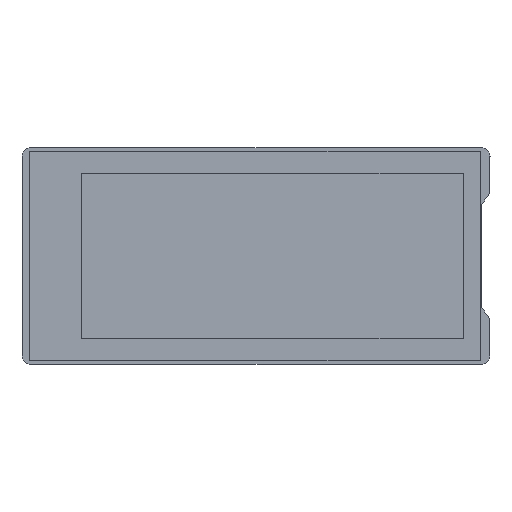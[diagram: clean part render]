
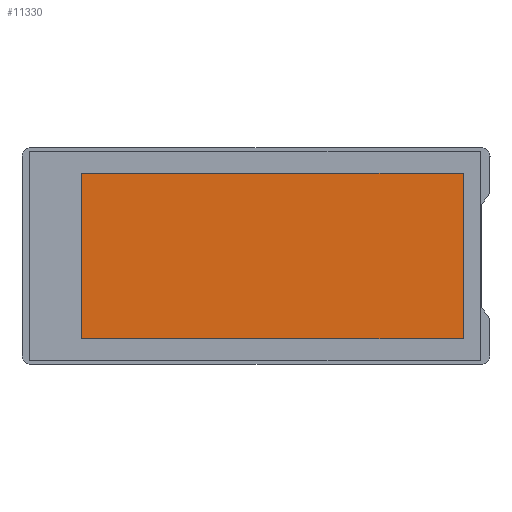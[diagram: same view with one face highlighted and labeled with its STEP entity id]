
A CAD part, top view. The second image highlights one B-rep face of the part: STEP entity #11330.
In plain terms, the highlighted planar face has unit normal (0, 0, 1).
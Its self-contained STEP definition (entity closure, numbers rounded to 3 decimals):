
#11330=ADVANCED_FACE('',(#15058),#12881,.T.);
#12881=PLANE('',#51309);
#15058=FACE_OUTER_BOUND('',#17388,.T.);
#17388=EDGE_LOOP('',(#29270,#29271,#29272,#29273));
#29270=ORIENTED_EDGE('',*,*,#39150,.T.);
#29271=ORIENTED_EDGE('',*,*,#39154,.T.);
#29272=ORIENTED_EDGE('',*,*,#39157,.T.);
#29273=ORIENTED_EDGE('',*,*,#39159,.T.);
#33200=VERTEX_POINT('',#83958);
#33201=VERTEX_POINT('',#83960);
#33203=VERTEX_POINT('',#83966);
#33205=VERTEX_POINT('',#83972);
#39150=EDGE_CURVE('',#33201,#33200,#43831,.T.);
#39154=EDGE_CURVE('',#33200,#33203,#43835,.T.);
#39157=EDGE_CURVE('',#33203,#33205,#43838,.T.);
#39159=EDGE_CURVE('',#33205,#33201,#43840,.T.);
#43831=LINE('',#83959,#48512);
#43835=LINE('',#83967,#48516);
#43838=LINE('',#83973,#48519);
#43840=LINE('',#83976,#48521);
#48512=VECTOR('',#61570,1.);
#48516=VECTOR('',#61576,1.);
#48519=VECTOR('',#61581,1.);
#48521=VECTOR('',#61585,1.);
#51309=AXIS2_PLACEMENT_3D('',#83978,#61588,#61589);
#61570=DIRECTION('',(0.,-1.,0.));
#61576=DIRECTION('',(1.,0.,0.));
#61581=DIRECTION('',(0.,1.,0.));
#61585=DIRECTION('',(-1.,0.,0.));
#61588=DIRECTION('',(0.,0.,1.));
#61589=DIRECTION('',(-1.,0.,0.));
#83958=CARTESIAN_POINT('',(-30.396,-14.53,1.2));
#83959=CARTESIAN_POINT('',(-30.396,14.526,1.2));
#83960=CARTESIAN_POINT('',(-30.396,14.526,1.2));
#83966=CARTESIAN_POINT('',(36.5,-14.53,1.2));
#83967=CARTESIAN_POINT('',(-30.396,-14.53,1.2));
#83972=CARTESIAN_POINT('',(36.5,14.526,1.2));
#83973=CARTESIAN_POINT('',(36.5,-14.53,1.2));
#83976=CARTESIAN_POINT('',(36.5,14.526,1.2));
#83978=CARTESIAN_POINT('',(0.,0.,1.2));
